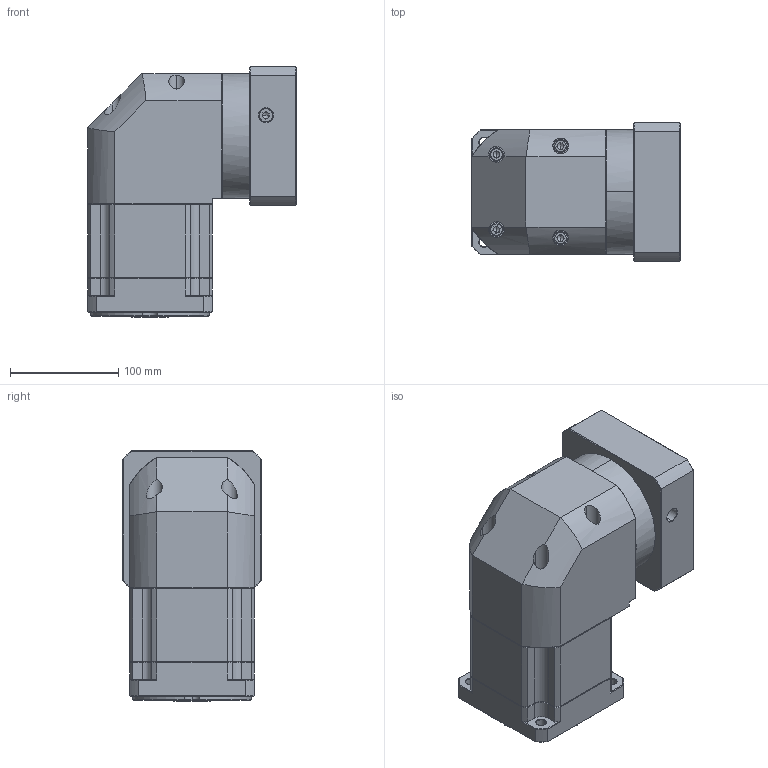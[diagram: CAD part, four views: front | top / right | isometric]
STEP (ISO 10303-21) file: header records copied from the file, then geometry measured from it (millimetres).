
FILE_DESCRIPTION (( 'STEP AP214' ), '1' );
FILE_NAME ('ZBR115A-K25-L2-P2-22-110-145-M8.step', '2023-08-26T12:44:14', ( '' ), ( '' ), 'SwSTEP 2.0', 'SolidWorks 2016', '' );
FILE_SCHEMA (( 'AUTOMOTIVE_DESIGN' ));
Length unit declared in the file: millimetre
Products named in the file (1): ZBR115A-K25-L2-P2-22-110-145-M8
Bounding box: 192.4 x 128 x 231.5 mm (x, y, z)
Volume: 3326149 mm3; surface area: 263924.9 mm2
Topology: 6 solids, 6 shells, 2325 faces, 6090 edges, 3869 vertices
Faces by surface type: plane 1132, bspline 416, cylinder 406, cone 363, torus 8
Entity records: 122698 total; most frequent: CARTESIAN_POINT 43290, ORIENTED_EDGE 12124, DIRECTION 9598, EDGE_CURVE 6062, VECTOR 3938, LINE 3938, VERTEX_POINT 3869, AXIS2_PLACEMENT_3D 2830
